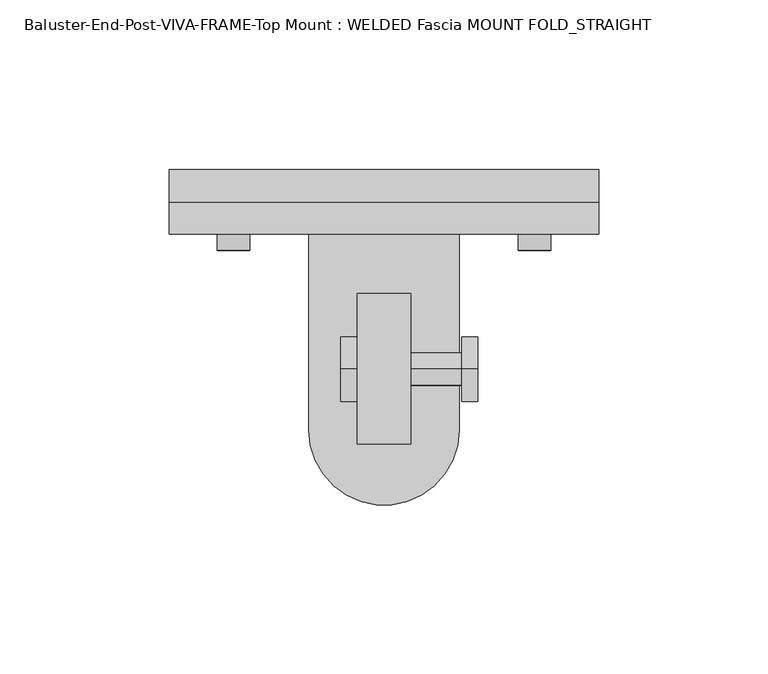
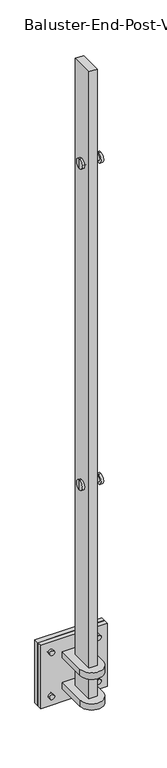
"""IFC4 building model written with IfcOpenShell, lengths in millimetres: proxy geometry, Baluster-End-Post-VIVA-FRAME-Top Mount : WELDED Fascia MOUNT FOLD_STRAIGHT."""

from ifc_helpers import new_model, si_unit, point, frame, frame_2d, origin, place, context, project, spatial, polyline, circle_curve, trimmed, segment, composite_curve, outline, extrude, source, transform, mapped, element, save
from ifc_brep_helpers import plane_surface, cylinder_surface, advanced_brep


def baluster_end_post_viva_frame_top_mount_welded_fascia_mount_b105cd36(model_context):
    return source(origin(), model_context, "Body", "SolidModel", [
        extrude(outline(polyline([(7.9375, -153.1423118), (-7.9375, -153.1423118), (-7.9375, -108.6923118), (7.9375, -108.6923118), (7.9375, -153.1423118)])), frame((0.0, 0.0, -183.7786931), z_axis=(0.0, 0.0, 1.0), x_axis=(1.0, 0.0, 0.0)), (0.0, 0.0, 1.0), 1269.9476704),
        extrude(outline(composite_curve([segment(polyline([(-22.225, -148.7552651), (-22.225, -90.8543584), (22.225, -90.8543584), (22.225, -148.7552651)]), True, "CONTINUOUS"), segment(trimmed(circle_curve(frame_2d((0.0, -148.7552651)), 22.225), [point((22.225, -148.7552651))], [point((-22.225, -148.7552651))], False, "CARTESIAN"), True, "CONTINUOUS")], self_intersect=False)), frame((0.0, 0.0, -190.0345072), z_axis=(0.0, 0.0, 1.0), x_axis=(1.0, 0.0, 0.0)), (0.0, 0.0, 1.0), 12.7),
        extrude(outline(composite_curve([segment(polyline([(22.225, -90.8543584), (22.225, -148.7552651)]), True, "CONTINUOUS"), segment(trimmed(circle_curve(frame_2d((0.0, -148.7552651)), 22.225), [point((22.225, -148.7552651))], [point((-22.225, -148.7552651))], False, "CARTESIAN"), True, "CONTINUOUS"), segment(polyline([(-22.225, -148.7552651), (-22.225, -90.8543584), (22.225, -90.8543584)]), True, "CONTINUOUS")], self_intersect=False)), frame((0.0, 0.0, -128.1093072), z_axis=(0.0, 0.0, 1.0), x_axis=(1.0, 0.0, 0.0)), (0.0, 0.0, 1.0), 12.7),
        extrude(outline(composite_curve([segment(trimmed(circle_curve(frame_2d((-107.4591072, 44.4449319)), 4.7752), [point((-107.4591072, 49.2201319))], [point((-107.4591072, 39.6697319))], False, "CARTESIAN"), True, "CONTINUOUS"), segment(trimmed(circle_curve(frame_2d((-107.4591072, 44.4449319)), 4.7752), [point((-107.4591072, 39.6697319))], [point((-107.4591072, 49.2201319))], False, "CARTESIAN"), True, "CONTINUOUS")], self_intersect=False)), frame((0.0, -95.6295584, 0.0), z_axis=(0.0, 1.0, 0.0), x_axis=(0.0, 0.0, 1.0)), (0.0, 0.0, 1.0), 14.3002),
        extrude(outline(composite_curve([segment(trimmed(circle_curve(frame_2d((-107.4591072, -44.4449319)), 4.7752), [point((-107.4591072, -39.6697319))], [point((-107.4591072, -49.2201319))], False, "CARTESIAN"), True, "CONTINUOUS"), segment(trimmed(circle_curve(frame_2d((-107.4591072, -44.4449319)), 4.7752), [point((-107.4591072, -49.2201319))], [point((-107.4591072, -39.6697319))], False, "CARTESIAN"), True, "CONTINUOUS")], self_intersect=False)), frame((0.0, -95.6295584, 0.0), z_axis=(0.0, 1.0, 0.0), x_axis=(0.0, 0.0, 1.0)), (0.0, 0.0, 1.0), 14.3002),
        extrude(outline(composite_curve([segment(trimmed(circle_curve(frame_2d((-196.3591072, -44.4449319)), 4.7752), [point((-196.3591072, -39.6697319))], [point((-196.3591072, -49.2201319))], False, "CARTESIAN"), True, "CONTINUOUS"), segment(trimmed(circle_curve(frame_2d((-196.3591072, -44.4449319)), 4.7752), [point((-196.3591072, -49.2201319))], [point((-196.3591072, -39.6697319))], False, "CARTESIAN"), True, "CONTINUOUS")], self_intersect=False)), frame((0.0, -95.6295584, 0.0), z_axis=(0.0, 1.0, 0.0), x_axis=(0.0, 0.0, 1.0)), (0.0, 0.0, 1.0), 14.3002),
        extrude(outline(composite_curve([segment(trimmed(circle_curve(frame_2d((-196.3591072, 44.4449319)), 4.7752), [point((-196.3591072, 49.2201319))], [point((-196.3591072, 39.6697319))], False, "CARTESIAN"), True, "CONTINUOUS"), segment(trimmed(circle_curve(frame_2d((-196.3591072, 44.4449319)), 4.7752), [point((-196.3591072, 39.6697319))], [point((-196.3591072, 49.2201319))], False, "CARTESIAN"), True, "CONTINUOUS")], self_intersect=False)), frame((0.0, -95.6295584, 0.0), z_axis=(0.0, 1.0, 0.0), x_axis=(0.0, 0.0, 1.0)), (0.0, 0.0, 1.0), 14.3002),
        extrude(outline(polyline([(63.4980216, -81.3293584), (-63.4980216, -81.3293584), (-63.4980216, -71.8043584), (63.4980216, -71.8043584), (63.4980216, -81.3293584)])), frame((0.0, 0.0, -215.4091072), z_axis=(0.0, 0.0, 1.0), x_axis=(1.0, 0.0, 0.0)), (0.0, 0.0, 1.0), 127.0),
        extrude(outline(polyline([(63.4980216, -90.8543584), (-63.4980216, -90.8543584), (-63.4980216, -81.3293584), (63.4980216, -81.3293584), (63.4980216, -90.8543584)])), frame((0.0, 0.0, -215.4091072), z_axis=(0.0, 0.0, 1.0), x_axis=(1.0, 0.0, 0.0)), (0.0, 0.0, 1.0), 127.0),
        advanced_brep(
        [(-12.7127, -130.9116, 231.7496), (-12.7127, -130.9116, 250.8504), (-12.7127, -130.9116, 241.3), (-7.9375, -130.9116, 231.7496), (-7.9375, -130.9116, 250.8504), (-7.9375, -130.9116, 236.5248), (-7.9375, -130.9116, 246.0752), (22.9997, -130.9116, 236.5248), (22.9997, -130.9116, 246.0752), (22.9997, -130.9116, 231.7496), (22.9997, -130.9116, 250.8504), (27.7749, -130.9116, 231.7496), (27.7749, -130.9116, 250.8504), (27.7749, -130.9116, 241.3)],
        [
            (0, 1, circle_curve(frame((-12.7127, -130.9116, 241.3), z_axis=(-1.0, 0.0, 0.0), x_axis=(0.0, 0.0, 1.0)), 9.5504)),
            (1, 2),
            (2, 0),
            (1, 0, circle_curve(frame((-12.7127, -130.9116, 241.3), z_axis=(-1.0, 0.0, 0.0), x_axis=(0.0, 0.0, 1.0)), 9.5504)),
            (3, 4, circle_curve(frame((-7.9375, -130.9116, 241.3), z_axis=(-1.0, 0.0, 0.0), x_axis=(0.0, 0.0, 1.0)), 9.5504)),
            (4, 1),
            (0, 3),
            (4, 3, circle_curve(frame((-7.9375, -130.9116, 241.3), z_axis=(-1.0, 0.0, 0.0), x_axis=(0.0, 0.0, 1.0)), 9.5504)),
            (5, 6, circle_curve(frame((-7.9375, -130.9116, 241.3), z_axis=(-1.0, 0.0, 0.0), x_axis=(0.0, 0.0, 1.0)), 4.7752)),
            (6, 4),
            (3, 5),
            (6, 5, circle_curve(frame((-7.9375, -130.9116, 241.3), z_axis=(-1.0, 0.0, 0.0), x_axis=(0.0, 0.0, 1.0)), 4.7752)),
            (7, 8, circle_curve(frame((22.9997, -130.9116, 241.3), z_axis=(-1.0, 0.0, 0.0), x_axis=(0.0, 0.0, 1.0)), 4.7752)),
            (8, 6),
            (5, 7),
            (8, 7, circle_curve(frame((22.9997, -130.9116, 241.3), z_axis=(-1.0, 0.0, 0.0), x_axis=(0.0, 0.0, 1.0)), 4.7752)),
            (9, 10, circle_curve(frame((22.9997, -130.9116, 241.3), z_axis=(-1.0, 0.0, 0.0), x_axis=(0.0, 0.0, 1.0)), 9.5504)),
            (10, 8),
            (7, 9),
            (10, 9, circle_curve(frame((22.9997, -130.9116, 241.3), z_axis=(-1.0, 0.0, 0.0), x_axis=(0.0, 0.0, 1.0)), 9.5504)),
            (11, 12, circle_curve(frame((27.7749, -130.9116, 241.3), z_axis=(-1.0, 0.0, 0.0), x_axis=(0.0, 0.0, 1.0)), 9.5504)),
            (12, 10),
            (9, 11),
            (12, 11, circle_curve(frame((27.7749, -130.9116, 241.3), z_axis=(-1.0, 0.0, 0.0), x_axis=(0.0, 0.0, 1.0)), 9.5504)),
            (13, 12),
            (11, 13),
        ],
        [
            plane_surface(frame((-12.7127, -130.9116, 241.3), z_axis=(-1.0, 0.0, 0.0), x_axis=(0.0, 0.0, 1.0))),
            cylinder_surface(frame((-3404.2930571, -130.9116, 241.3), z_axis=(1.0, 0.0, 0.0), x_axis=(0.0, 0.0, 1.0)), 9.5504),
            plane_surface(frame((-7.9375, -130.9116, 241.3), z_axis=(1.0, 0.0, 0.0), x_axis=(0.0, 0.0, 1.0))),
            cylinder_surface(frame((-3404.2930571, -130.9116, 241.3), z_axis=(1.0, 0.0, 0.0), x_axis=(0.0, 0.0, 1.0)), 4.7752),
            plane_surface(frame((22.9997, -130.9116, 241.3), z_axis=(-1.0, 0.0, 0.0), x_axis=(0.0, 0.0, 1.0))),
            plane_surface(frame((27.7749, -130.9116, 241.3), z_axis=(1.0, 0.0, 0.0), x_axis=(0.0, 0.0, 1.0))),
        ],
        [
            (0, [[1, 2, 3]]),
            (0, [[4, -3, -2]]),
            (1, [[5, 6, -1, 7]]),
            (1, [[8, -7, -4, -6]]),
            (2, [[9, 10, -5, 11]]),
            (2, [[12, -11, -8, -10]]),
            (3, [[13, 14, -9, 15]]),
            (3, [[16, -15, -12, -14]]),
            (4, [[17, 18, -13, 19]]),
            (4, [[20, -19, -16, -18]]),
            (1, [[21, 22, -17, 23]]),
            (1, [[24, -23, -20, -22]]),
            (5, [[25, -21, 26]]),
            (5, [[-26, -24, -25]]),
        ],
    ),
        advanced_brep(
        [(-12.7127, -130.9116, 879.4559555), (-12.7127, -130.9116, 898.5567555), (-12.7127, -130.9116, 889.0063555), (-7.9375, -130.9116, 879.4559555), (-7.9375, -130.9116, 898.5567555), (-7.9375, -130.9116, 884.2311555), (-7.9375, -130.9116, 893.7815555), (22.9997, -130.9116, 884.2311555), (22.9997, -130.9116, 893.7815555), (22.9997, -130.9116, 879.4559555), (22.9997, -130.9116, 898.5567555), (27.7749, -130.9116, 879.4559555), (27.7749, -130.9116, 898.5567555), (27.7749, -130.9116, 889.0063555)],
        [
            (0, 1, circle_curve(frame((-12.7127, -130.9116, 889.0063555), z_axis=(-1.0, 0.0, 0.0), x_axis=(0.0, 0.0, 1.0)), 9.5504)),
            (1, 2),
            (2, 0),
            (1, 0, circle_curve(frame((-12.7127, -130.9116, 889.0063555), z_axis=(-1.0, 0.0, 0.0), x_axis=(0.0, 0.0, 1.0)), 9.5504)),
            (3, 4, circle_curve(frame((-7.9375, -130.9116, 889.0063555), z_axis=(-1.0, 0.0, 0.0), x_axis=(0.0, 0.0, 1.0)), 9.5504)),
            (4, 1),
            (0, 3),
            (4, 3, circle_curve(frame((-7.9375, -130.9116, 889.0063555), z_axis=(-1.0, 0.0, 0.0), x_axis=(0.0, 0.0, 1.0)), 9.5504)),
            (5, 6, circle_curve(frame((-7.9375, -130.9116, 889.0063555), z_axis=(-1.0, 0.0, 0.0), x_axis=(0.0, 0.0, 1.0)), 4.7752)),
            (6, 4),
            (3, 5),
            (6, 5, circle_curve(frame((-7.9375, -130.9116, 889.0063555), z_axis=(-1.0, 0.0, 0.0), x_axis=(0.0, 0.0, 1.0)), 4.7752)),
            (7, 8, circle_curve(frame((22.9997, -130.9116, 889.0063555), z_axis=(-1.0, 0.0, 0.0), x_axis=(0.0, 0.0, 1.0)), 4.7752)),
            (8, 6),
            (5, 7),
            (8, 7, circle_curve(frame((22.9997, -130.9116, 889.0063555), z_axis=(-1.0, 0.0, 0.0), x_axis=(0.0, 0.0, 1.0)), 4.7752)),
            (9, 10, circle_curve(frame((22.9997, -130.9116, 889.0063555), z_axis=(-1.0, 0.0, 0.0), x_axis=(0.0, 0.0, 1.0)), 9.5504)),
            (10, 8),
            (7, 9),
            (10, 9, circle_curve(frame((22.9997, -130.9116, 889.0063555), z_axis=(-1.0, 0.0, 0.0), x_axis=(0.0, 0.0, 1.0)), 9.5504)),
            (11, 12, circle_curve(frame((27.7749, -130.9116, 889.0063555), z_axis=(-1.0, 0.0, 0.0), x_axis=(0.0, 0.0, 1.0)), 9.5504)),
            (12, 10),
            (9, 11),
            (12, 11, circle_curve(frame((27.7749, -130.9116, 889.0063555), z_axis=(-1.0, 0.0, 0.0), x_axis=(0.0, 0.0, 1.0)), 9.5504)),
            (13, 12),
            (11, 13),
        ],
        [
            plane_surface(frame((-12.7127, -130.9116, 889.0063555), z_axis=(-1.0, 0.0, 0.0), x_axis=(0.0, 0.0, 1.0))),
            cylinder_surface(frame((-3404.2930571, -130.9116, 889.0063555), z_axis=(1.0, 0.0, 0.0), x_axis=(0.0, 0.0, 1.0)), 9.5504),
            plane_surface(frame((-7.9375, -130.9116, 889.0063555), z_axis=(1.0, 0.0, 0.0), x_axis=(0.0, 0.0, 1.0))),
            cylinder_surface(frame((-3404.2930571, -130.9116, 889.0063555), z_axis=(1.0, 0.0, 0.0), x_axis=(0.0, 0.0, 1.0)), 4.7752),
            plane_surface(frame((22.9997, -130.9116, 889.0063555), z_axis=(-1.0, 0.0, 0.0), x_axis=(0.0, 0.0, 1.0))),
            plane_surface(frame((27.7749, -130.9116, 889.0063555), z_axis=(1.0, 0.0, 0.0), x_axis=(0.0, 0.0, 1.0))),
        ],
        [
            (0, [[1, 2, 3]]),
            (0, [[4, -3, -2]]),
            (1, [[5, 6, -1, 7]]),
            (1, [[8, -7, -4, -6]]),
            (2, [[9, 10, -5, 11]]),
            (2, [[12, -11, -8, -10]]),
            (3, [[13, 14, -9, 15]]),
            (3, [[16, -15, -12, -14]]),
            (4, [[17, 18, -13, 19]]),
            (4, [[20, -19, -16, -18]]),
            (1, [[21, 22, -17, 23]]),
            (1, [[24, -23, -20, -22]]),
            (5, [[25, -21, 26]]),
            (5, [[-26, -24, -25]]),
        ],
    ),
    ])


if __name__ == "__main__":
    model = new_model("IFC4")
    model_context = context("Model", 3, world=origin())
    ifc_project = project(units=[si_unit("LENGTHUNIT", "METRE", prefix="MILLI")], contexts=[model_context])
    site = spatial("IfcSite", under=ifc_project)
    building = spatial("IfcBuilding", under=site)
    placement = place(None, origin())
    baluster_end_post_viva_frame_top_mount_welded_fascia_mount_shape = baluster_end_post_viva_frame_top_mount_welded_fascia_mount_b105cd36(model_context)
    element("IfcBuildingElementProxy", 1, Name="Baluster-End-Post-VIVA-FRAME-Top Mount : WELDED Fascia MOUNT FOLD_STRAIGHT", ObjectType="Baluster-End-Post-VIVA-FRAME-Top Mount : WELDED Fascia MOUNT FOLD_STRAIGHT", at=placement, inside=building, context=model_context, shape_type="MappedRepresentation", body=[
        mapped(baluster_end_post_viva_frame_top_mount_welded_fascia_mount_shape, transform((0.0, 0.0, 0.0), x_axis=(1.0, 0.0, 0.0), y_axis=(0.0, 1.0, 0.0), z_axis=(0.0, 0.0, 1.0))),
    ])
    save(model, "model.ifc")
